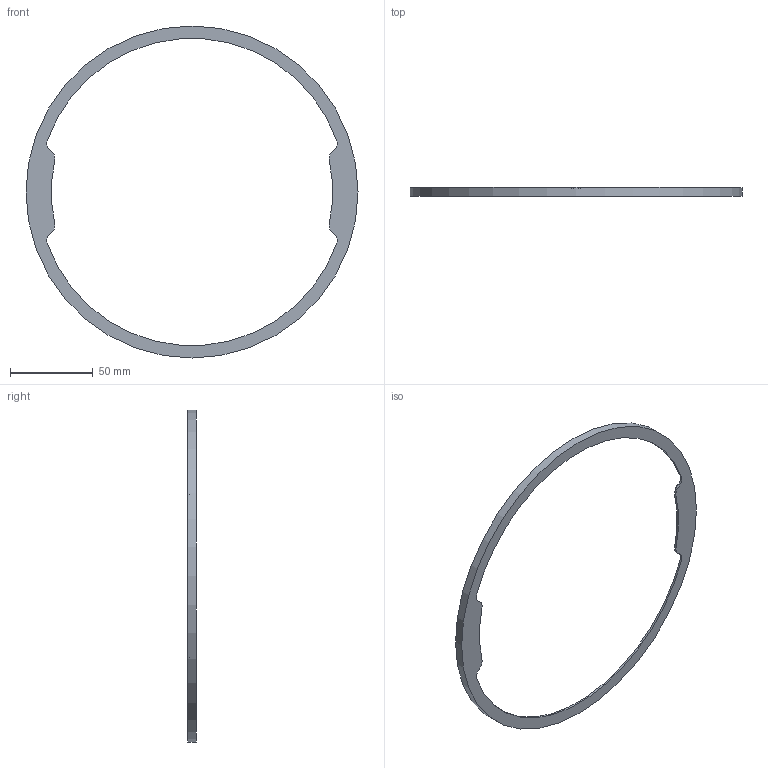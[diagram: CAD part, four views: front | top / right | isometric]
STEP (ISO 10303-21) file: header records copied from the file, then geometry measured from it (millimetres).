
FILE_DESCRIPTION(/* description */ (''),/* implementation_level */ '2;1');
FILE_NAME(/* name */ 'Bambu AMS Cardboard Spool Adapter V2.step',/* time_stamp */ '2023-06-07T16:57:14-04:00',/* author */ (''),/* organization */ (''),/* preprocessor_version */ 'ST-DEVELOPER v19.2',/* originating_system */ 'Autodesk Translation Framework v12.6.0.85',/* authorisation */ '');
FILE_SCHEMA (('AUTOMOTIVE_DESIGN { 1 0 10303 214 3 1 1 }'));
Length unit declared in the file: millimetre
Products named in the file (1): Bambu AMS Cardboard Spool Adapter
Bounding box: 201 x 5.2 x 201 mm (x, y, z)
Volume: 8914.8 mm3; surface area: 17358.3 mm2
Topology: 1 solids, 1 shells, 49 faces, 126 edges, 84 vertices
Faces by surface type: cylinder 20, plane 19, cone 10
Full cylindrical faces by diameter (mm): 199.2 x1, 201 x1
Entity records: 1545 total; most frequent: CARTESIAN_POINT 284, DIRECTION 274, ORIENTED_EDGE 252, EDGE_CURVE 126, AXIS2_PLACEMENT_3D 110, VERTEX_POINT 84, CIRCLE 60, EDGE_LOOP 56
